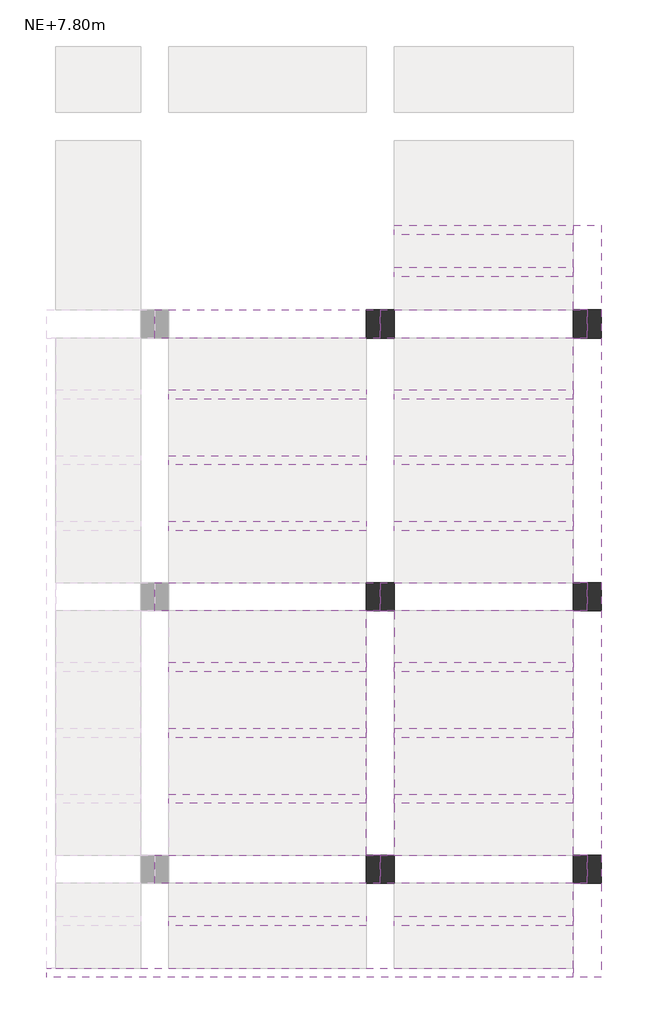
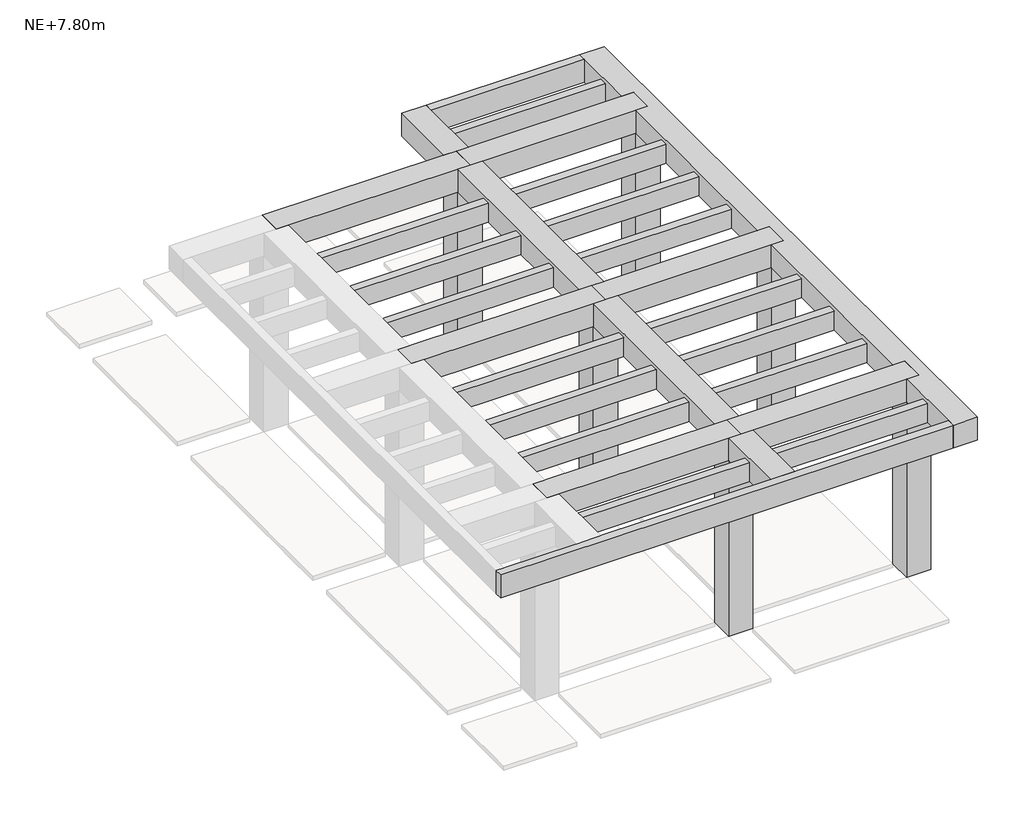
# One storey, part 2 of 2: 25 beams, 6 columns.
"""IFC4 building model written with IfcOpenShell, lengths in millimetres."""

from ifc_helpers import new_model, si_unit, frame, origin, place, context, project, spatial, polyline, outline, extrude, faceted_brep, element, save

model = new_model("IFC4")

# Units and contexts
model_context = context("Model", 3, world=origin())
ifc_project = project(units=[si_unit("LENGTHUNIT", "METRE", prefix="MILLI")], contexts=[model_context])

# Site, building, storey
site = spatial("IfcSite", under=ifc_project)
building = spatial("IfcBuilding", under=site)
storey = spatial("IfcBuildingStorey", under=building, Name="NE+7.80m", Elevation=7800.0)

# Beams
placement = place(None, origin())
element("IfcBeam", 1, ObjectType="Hormigón-Viga rectangular : VA (0.30x0.30m)", at=placement, inside=storey, context=model_context, shape_type="Brep", body=[
    faceted_brep([(1502.3188918, -1037.1867862, 10400.0), (1502.3188918, -1337.1867862, 10400.0), (1652.3188918, -1337.1867862, 10400.0), (3552.3188918, -1337.1867862, 10400.0), (3702.3188918, -1337.1867862, 10400.0), (3702.3188918, -1037.1867862, 10400.0), (3552.3188918, -1037.1867862, 10400.0), (1652.3188918, -1037.1867862, 10400.0), (3702.3188918, -1037.1867862, 10100.0), (3552.3188918, -1037.1867862, 10100.0), (1652.3188918, -1037.1867862, 10100.0), (1502.3188918, -1037.1867862, 10100.0), (3702.3188918, -1337.1867862, 10100.0), (3552.3188918, -1337.1867862, 10100.0), (1652.3188918, -1337.1867862, 10100.0), (1502.3188918, -1337.1867862, 10100.0)], [[[0, 1, 2, 3, 4, 5, 6, 7]], [[8, 9, 10, 11, 0, 7, 6, 5]], [[11, 10, 9, 8, 12, 13, 14, 15]], [[15, 14, 13, 12, 4, 3, 2, 1]], [[1, 0, 11, 15]], [[4, 12, 8, 5]]]),
])
element("IfcBeam", 2, ObjectType="Hormigón-Viga rectangular : VA (0.30x0.30m)", at=placement, inside=storey, context=model_context, shape_type="Brep", body=[
    faceted_brep([(1502.3188918, -1037.1867862, 10400.0), (1352.3188918, -1037.1867862, 10400.0), (-897.6811082, -1037.1867862, 10400.0), (-897.6811082, -1337.1867862, 10400.0), (-747.6811082, -1337.1867862, 10400.0), (1352.3188918, -1337.1867862, 10400.0), (1502.3188918, -1337.1867862, 10400.0), (1502.3188918, -1037.1867862, 10100.0), (1352.3188918, -1037.1867862, 10100.0), (-897.6811082, -1037.1867862, 10100.0), (1502.3188918, -1337.1867862, 10100.0), (1352.3188918, -1337.1867862, 10100.0), (-747.6811082, -1337.1867862, 10100.0), (-897.6811082, -1337.1867862, 10100.0)], [[[0, 1, 2, 3, 4, 5, 6]], [[2, 1, 0, 7, 8, 9]], [[9, 8, 7, 10, 11, 12, 13]], [[13, 12, 11, 10, 6, 5, 4, 3]], [[3, 2, 9, 13]], [[6, 10, 7, 0]]]),
])
element("IfcBeam", 3, ObjectType="Hormigón-Viga rectangular : VA (0.30x0.30m)", at=placement, inside=storey, context=model_context, shape_type="Brep", body=[
    faceted_brep([(1502.3188918, -3937.1867862, 10400.0), (1502.3188918, -4237.1867862, 10400.0), (1652.3188918, -4237.1867862, 10400.0), (3552.3188918, -4237.1867862, 10400.0), (3702.3188918, -4237.1867862, 10400.0), (3702.3188918, -3937.1867862, 10400.0), (3552.3188918, -3937.1867862, 10400.0), (1652.3188918, -3937.1867862, 10400.0), (3702.3188918, -3937.1867862, 10100.0), (3552.3188918, -3937.1867862, 10100.0), (1652.3188918, -3937.1867862, 10100.0), (1502.3188918, -3937.1867862, 10100.0), (3702.3188918, -4237.1867862, 10100.0), (3552.3188918, -4237.1867862, 10100.0), (1652.3188918, -4237.1867862, 10100.0), (1502.3188918, -4237.1867862, 10100.0)], [[[0, 1, 2, 3, 4, 5, 6, 7]], [[8, 9, 10, 11, 0, 7, 6, 5]], [[11, 10, 9, 8, 12, 13, 14, 15]], [[15, 14, 13, 12, 4, 3, 2, 1]], [[1, 0, 11, 15]], [[4, 12, 8, 5]]]),
])
element("IfcBeam", 4, ObjectType="Hormigón-Viga rectangular : VA (0.30x0.30m)", at=placement, inside=storey, context=model_context, shape_type="Brep", body=[
    faceted_brep([(-897.6811082, -3937.1867862, 10400.0), (-897.6811082, -4237.1867862, 10400.0), (-747.6811082, -4237.1867862, 10400.0), (1352.3188918, -4237.1867862, 10400.0), (1502.3188918, -4237.1867862, 10400.0), (1502.3188918, -3937.1867862, 10400.0), (1352.3188918, -3937.1867862, 10400.0), (-747.6811082, -3937.1867862, 10400.0), (1502.3188918, -3937.1867862, 10100.0), (1352.3188918, -3937.1867862, 10100.0), (-747.6811082, -3937.1867862, 10100.0), (-897.6811082, -3937.1867862, 10100.0), (1502.3188918, -4237.1867862, 10100.0), (1352.3188918, -4237.1867862, 10100.0), (-747.6811082, -4237.1867862, 10100.0), (-897.6811082, -4237.1867862, 10100.0)], [[[0, 1, 2, 3, 4, 5, 6, 7]], [[8, 9, 10, 11, 0, 7, 6, 5]], [[11, 10, 9, 8, 12, 13, 14, 15]], [[15, 14, 13, 12, 4, 3, 2, 1]], [[1, 0, 11, 15]], [[4, 12, 8, 5]]]),
])
element("IfcBeam", 5, ObjectType="Hormigón-Viga rectangular : VA (0.30x0.30m)", at=placement, inside=storey, context=model_context, shape_type="Brep", body=[
    faceted_brep([(3702.3188918, -7137.1867862, 10400.0), (3702.3188918, -6837.1867862, 10400.0), (3552.3188918, -6837.1867862, 10400.0), (1652.3188918, -6837.1867862, 10400.0), (1502.3188918, -6837.1867862, 10400.0), (1502.3188918, -7137.1867862, 10400.0), (1652.3188918, -7137.1867862, 10400.0), (3552.3188918, -7137.1867862, 10400.0), (3702.3188918, -6837.1867862, 10100.0), (3552.3188918, -6837.1867862, 10100.0), (1652.3188918, -6837.1867862, 10100.0), (1502.3188918, -6837.1867862, 10100.0), (3702.3188918, -7137.1867862, 10100.0), (3552.3188918, -7137.1867862, 10100.0), (1652.3188918, -7137.1867862, 10100.0), (1502.3188918, -7137.1867862, 10100.0)], [[[0, 1, 2, 3, 4, 5, 6, 7]], [[8, 9, 10, 11, 4, 3, 2, 1]], [[11, 10, 9, 8, 12, 13, 14, 15]], [[15, 14, 13, 12, 0, 7, 6, 5]], [[0, 12, 8, 1]], [[5, 4, 11, 15]]]),
])
element("IfcBeam", 6, ObjectType="Hormigón-Viga rectangular : VA (0.30x0.30m)", at=placement, inside=storey, context=model_context, shape_type="Brep", body=[
    faceted_brep([(1502.3188918, -7137.1867862, 10400.0), (1502.3188918, -6837.1867862, 10400.0), (1352.3188918, -6837.1867862, 10400.0), (-747.6811082, -6837.1867862, 10400.0), (-897.6811082, -6837.1867862, 10400.0), (-897.6811082, -7137.1867862, 10400.0), (-747.6811082, -7137.1867862, 10400.0), (1352.3188918, -7137.1867862, 10400.0), (1502.3188918, -6837.1867862, 10100.0), (1352.3188918, -6837.1867862, 10100.0), (-747.6811082, -6837.1867862, 10100.0), (-897.6811082, -6837.1867862, 10100.0), (1502.3188918, -7137.1867862, 10100.0), (1352.3188918, -7137.1867862, 10100.0), (-747.6811082, -7137.1867862, 10100.0), (-897.6811082, -7137.1867862, 10100.0)], [[[0, 1, 2, 3, 4, 5, 6, 7]], [[8, 9, 10, 11, 4, 3, 2, 1]], [[11, 10, 9, 8, 12, 13, 14, 15]], [[15, 14, 13, 12, 0, 7, 6, 5]], [[0, 12, 8, 1]], [[5, 4, 11, 15]]]),
])
element("IfcBeam", 7, ObjectType="Hormigón-Viga rectangular : VA (0.30x0.30m)", at=placement, inside=storey, context=model_context, shape_type="Brep", body=[
    faceted_brep([(3552.3188918, -1037.1867862, 10400.0), (3702.3188918, -1037.1867862, 10400.0), (3702.3188918, -1337.1867862, 10400.0), (3552.3188918, -1337.1867862, 10400.0), (3552.3188918, -3937.1867862, 10400.0), (3702.3188918, -3937.1867862, 10400.0), (3702.3188918, -4237.1867862, 10400.0), (3552.3188918, -4237.1867862, 10400.0), (3552.3188918, -6837.1867862, 10400.0), (3702.3188918, -6837.1867862, 10400.0), (3702.3188918, -7137.1867862, 10400.0), (3552.3188918, -7137.1867862, 10400.0), (3552.3188918, -8037.1867862, 10400.0), (3552.3188918, -8137.1867862, 10400.0), (3852.3188918, -8137.1867862, 10400.0), (3852.3188918, -137.1867862, 10400.0), (3552.3188918, -137.1867862, 10400.0), (3552.3188918, -237.1867862, 10400.0), (3852.3188918, -137.1867862, 10100.0), (3852.3188918, -8137.1867862, 10100.0), (3852.3188918, -7137.1867862, 10100.0), (3852.3188918, -6837.1867862, 10100.0), (3852.3188918, -4237.1867862, 10100.0), (3852.3188918, -3937.1867862, 10100.0), (3852.3188918, -1337.1867862, 10100.0), (3852.3188918, -1037.1867862, 10100.0), (3702.3188918, -1037.1867862, 10100.0), (3552.3188918, -1037.1867862, 10100.0), (3552.3188918, -687.1867862, 10100.0), (3552.3188918, -587.1867862, 10100.0), (3552.3188918, -237.1867862, 10100.0), (3552.3188918, -137.1867862, 10100.0), (3552.3188918, -8137.1867862, 10100.0), (3552.3188918, -8037.1867862, 10100.0), (3552.3188918, -7587.1867862, 10100.0), (3552.3188918, -7487.1867862, 10100.0), (3552.3188918, -7137.1867862, 10100.0), (3702.3188918, -7137.1867862, 10100.0), (3702.3188918, -6837.1867862, 10100.0), (3552.3188918, -6837.1867862, 10100.0), (3552.3188918, -6287.1867862, 10100.0), (3552.3188918, -6187.1867862, 10100.0), (3552.3188918, -5587.1867862, 10100.0), (3552.3188918, -5487.1867862, 10100.0), (3552.3188918, -4887.1867862, 10100.0), (3552.3188918, -4787.1867862, 10100.0), (3552.3188918, -4237.1867862, 10100.0), (3702.3188918, -4237.1867862, 10100.0), (3702.3188918, -3937.1867862, 10100.0), (3552.3188918, -3937.1867862, 10100.0), (3552.3188918, -3387.1867862, 10100.0), (3552.3188918, -3287.1867862, 10100.0), (3552.3188918, -2687.1867862, 10100.0), (3552.3188918, -2587.1867862, 10100.0), (3552.3188918, -1987.1867862, 10100.0), (3552.3188918, -1887.1867862, 10100.0), (3552.3188918, -1337.1867862, 10100.0), (3702.3188918, -1337.1867862, 10100.0), (3552.3188918, -7137.1867862, 10350.0), (3552.3188918, -1037.1867862, 10350.0), (3552.3188918, -1337.1867862, 10350.0), (3552.3188918, -3937.1867862, 10350.0), (3552.3188918, -4237.1867862, 10350.0), (3552.3188918, -6837.1867862, 10350.0)], [[[0, 1, 2, 3, 4, 5, 6, 7, 8, 9, 10, 11, 12, 13, 14, 15, 16, 17]], [[18, 15, 14, 19, 20, 21, 22, 23, 24, 25]], [[26, 27, 28, 29, 30, 31, 18, 25, 24, 23, 22, 21, 20, 19, 32, 33, 34, 35, 36, 37, 38, 39, 40, 41, 42, 43, 44, 45, 46, 47, 48, 49, 50, 51, 52, 53, 54, 55, 56, 57]], [[32, 13, 12, 11, 58, 36, 35, 34, 33]], [[26, 1, 0, 59, 27]], [[2, 57, 56, 60, 3]], [[1, 26, 57, 2]], [[27, 59, 0, 17, 16, 31, 30, 29, 28]], [[48, 5, 4, 61, 49]], [[6, 47, 46, 62, 7]], [[5, 48, 47, 6]], [[38, 9, 8, 63, 39]], [[10, 37, 36, 58, 11]], [[9, 38, 37, 10]], [[16, 15, 18, 31]], [[14, 13, 32, 19]], [[3, 60, 56, 55, 54, 53, 52, 51, 50, 49, 61, 4]], [[7, 62, 46, 45, 44, 43, 42, 41, 40, 39, 63, 8]]]),
])
element("IfcBeam", 8, ObjectType="Hormigón-Viga rectangular : VA (0.30x0.30m)", at=placement, inside=storey, context=model_context, shape_type="Brep", body=[
    faceted_brep([(1352.3188918, -1037.1867862, 10400.0), (1502.3188918, -1037.1867862, 10400.0), (1652.3188918, -1037.1867862, 10400.0), (1652.3188918, -237.1867862, 10400.0), (1652.3188918, -137.1867862, 10400.0), (1352.3188918, -137.1867862, 10400.0), (1352.3188918, -1037.1867862, 10100.0), (1352.3188918, -137.1867862, 10100.0), (1652.3188918, -1037.1867862, 10100.0), (1502.3188918, -1037.1867862, 10100.0), (1652.3188918, -137.1867862, 10100.0), (1652.3188918, -237.1867862, 10100.0), (1652.3188918, -587.1867862, 10100.0), (1652.3188918, -687.1867862, 10100.0), (1652.3188918, -1037.1867862, 10350.0)], [[[0, 1, 2, 3, 4, 5]], [[6, 0, 5, 7]], [[8, 9, 6, 7, 10, 11, 12, 13]], [[10, 4, 3, 2, 14, 8, 13, 12, 11]], [[0, 6, 9, 8, 14, 2, 1]], [[5, 4, 10, 7]]]),
    faceted_brep([(1352.3188918, -1337.1867862, 10400.0), (1502.3188918, -1337.1867862, 10400.0), (1652.3188918, -1337.1867862, 10400.0), (1652.3188918, -1337.1867862, 10350.0), (1652.3188918, -1337.1867862, 10100.0), (1502.3188918, -1337.1867862, 10100.0), (1352.3188918, -1337.1867862, 10100.0), (1352.3188918, -1337.1867862, 10350.0), (1652.3188918, -3937.1867862, 10400.0), (1502.3188918, -3937.1867862, 10400.0), (1352.3188918, -3937.1867862, 10400.0), (1352.3188918, -3937.1867862, 10350.0), (1352.3188918, -3937.1867862, 10100.0), (1502.3188918, -3937.1867862, 10100.0), (1652.3188918, -3937.1867862, 10100.0), (1652.3188918, -3937.1867862, 10350.0), (1652.3188918, -3387.1867862, 10100.0), (1652.3188918, -3287.1867862, 10100.0), (1652.3188918, -2687.1867862, 10100.0), (1652.3188918, -2587.1867862, 10100.0), (1652.3188918, -1987.1867862, 10100.0), (1652.3188918, -1887.1867862, 10100.0), (1352.3188918, -1887.1867862, 10100.0), (1352.3188918, -1987.1867862, 10100.0), (1352.3188918, -2587.1867862, 10100.0), (1352.3188918, -2687.1867862, 10100.0), (1352.3188918, -3287.1867862, 10100.0), (1352.3188918, -3387.1867862, 10100.0)], [[[0, 1, 2, 3, 4, 5, 6, 7]], [[8, 9, 10, 11, 12, 13, 14, 15]], [[14, 16, 17, 18, 19, 20, 21, 4, 3, 2, 8, 15]], [[2, 1, 0, 10, 9, 8]], [[10, 0, 7, 6, 22, 23, 24, 25, 26, 27, 12, 11]], [[6, 5, 4, 21, 20, 19, 18, 17, 16, 14, 13, 12, 27, 26, 25, 24, 23, 22]]]),
    faceted_brep([(1652.3188918, -6837.1867862, 10100.0), (1652.3188918, -6287.1867862, 10100.0), (1652.3188918, -6187.1867862, 10100.0), (1652.3188918, -5587.1867862, 10100.0), (1652.3188918, -5487.1867862, 10100.0), (1652.3188918, -4887.1867862, 10100.0), (1652.3188918, -4787.1867862, 10100.0), (1652.3188918, -4237.1867862, 10100.0), (1652.3188918, -4237.1867862, 10350.0), (1652.3188918, -4237.1867862, 10400.0), (1652.3188918, -6837.1867862, 10400.0), (1652.3188918, -6837.1867862, 10350.0), (1502.3188918, -4237.1867862, 10400.0), (1352.3188918, -4237.1867862, 10400.0), (1352.3188918, -6837.1867862, 10400.0), (1502.3188918, -6837.1867862, 10400.0), (1352.3188918, -4237.1867862, 10350.0), (1352.3188918, -4237.1867862, 10100.0), (1352.3188918, -4787.1867862, 10100.0), (1352.3188918, -4887.1867862, 10100.0), (1352.3188918, -5487.1867862, 10100.0), (1352.3188918, -5587.1867862, 10100.0), (1352.3188918, -6187.1867862, 10100.0), (1352.3188918, -6287.1867862, 10100.0), (1352.3188918, -6837.1867862, 10100.0), (1352.3188918, -6837.1867862, 10350.0), (1502.3188918, -4237.1867862, 10100.0), (1502.3188918, -6837.1867862, 10100.0)], [[[0, 1, 2, 3, 4, 5, 6, 7, 8, 9, 10, 11]], [[9, 12, 13, 14, 15, 10]], [[14, 13, 16, 17, 18, 19, 20, 21, 22, 23, 24, 25]], [[17, 26, 7, 6, 5, 4, 3, 2, 1, 0, 27, 24, 23, 22, 21, 20, 19, 18]], [[7, 26, 17, 16, 13, 12, 9, 8]], [[10, 15, 14, 25, 24, 27, 0, 11]]]),
    faceted_brep([(1652.3188918, -7137.1867862, 10100.0), (1502.3188918, -7137.1867862, 10100.0), (1352.3188918, -7137.1867862, 10100.0), (1352.3188918, -7137.1867862, 10350.0), (1352.3188918, -7137.1867862, 10400.0), (1502.3188918, -7137.1867862, 10400.0), (1652.3188918, -7137.1867862, 10400.0), (1652.3188918, -7137.1867862, 10350.0), (1652.3188918, -8037.1867862, 10100.0), (1652.3188918, -7587.1867862, 10100.0), (1652.3188918, -7487.1867862, 10100.0), (1652.3188918, -8037.1867862, 10400.0), (1652.3188918, -8037.1867862, 10350.0), (1352.3188918, -8037.1867862, 10400.0), (1352.3188918, -7487.1867862, 10100.0), (1352.3188918, -7587.1867862, 10100.0), (1352.3188918, -8037.1867862, 10100.0), (1352.3188918, -8037.1867862, 10350.0)], [[[0, 1, 2, 3, 4, 5, 6, 7]], [[8, 9, 10, 0, 7, 6, 11, 12]], [[6, 5, 4, 13, 11]], [[13, 4, 3, 2, 14, 15, 16, 17]], [[2, 1, 0, 10, 9, 8, 16, 15, 14]], [[11, 13, 17, 16, 8, 12]]]),
])
element("IfcBeam", 9, ObjectType="Hormigón-Viga rectangular : VB (0.10x0.30m)", at=placement, inside=storey, context=model_context, shape_type="Brep", body=[
    faceted_brep([(-2047.6811082, -8037.1867862, 10400.0), (-2047.6811082, -8137.1867862, 10400.0), (3552.3188918, -8137.1867862, 10400.0), (3552.3188918, -8037.1867862, 10400.0), (1652.3188918, -8037.1867862, 10400.0), (1352.3188918, -8037.1867862, 10400.0), (-747.6811082, -8037.1867862, 10400.0), (-1047.6811082, -8037.1867862, 10400.0), (-1947.6811082, -8037.1867862, 10400.0), (-2047.6811082, -8037.1867862, 10100.0), (3552.3188918, -8037.1867862, 10350.0), (3552.3188918, -8037.1867862, 10100.0), (1652.3188918, -8037.1867862, 10100.0), (1352.3188918, -8037.1867862, 10100.0), (-747.6811082, -8037.1867862, 10100.0), (-1047.6811082, -8037.1867862, 10100.0), (-1947.6811082, -8037.1867862, 10100.0), (-2047.6811082, -8137.1867862, 10100.0), (3552.3188918, -8137.1867862, 10100.0)], [[[0, 1, 2, 3, 4, 5, 6, 7, 8]], [[9, 0, 8, 7, 6, 5, 4, 3, 10, 11, 12, 13, 14, 15, 16]], [[17, 9, 16, 15, 14, 13, 12, 11, 18]], [[1, 17, 18, 2]], [[1, 0, 9, 17]], [[3, 2, 18, 11, 10]]]),
])
element("IfcBeam", 10, ObjectType="Hormigón-Viga rectangular : VB (0.10x0.30m)", at=placement, inside=storey, context=model_context, shape_type="Brep", body=[
    faceted_brep([(1652.3188918, -137.1867862, 10400.0), (1652.3188918, -237.1867862, 10400.0), (3552.3188918, -237.1867862, 10400.0), (3552.3188918, -137.1867862, 10400.0), (1652.3188918, -137.1867862, 10100.0), (3552.3188918, -137.1867862, 10100.0), (1652.3188918, -237.1867862, 10100.0), (3552.3188918, -237.1867862, 10100.0), (1652.3188918, -237.1867862, 10350.0), (3552.3188918, -237.1867862, 10350.0)], [[[0, 1, 2, 3]], [[4, 0, 3, 5]], [[6, 4, 5, 7]], [[1, 8, 6, 7, 9, 2]], [[1, 0, 4, 6, 8]], [[3, 2, 9, 7, 5]]]),
])
element("IfcBeam", 11, ObjectType="Hormigón-Viga rectangular : VT (0.10x0.30m)", at=placement, inside=storey, context=model_context, shape_type="SweptSolid", body=[
    extrude(outline(polyline([(3552.3188918, -7487.1867862), (3552.3188918, -7587.1867862), (1652.3188918, -7587.1867862), (1652.3188918, -7487.1867862), (3552.3188918, -7487.1867862)])), frame((0.0, 0.0, 10100.0), z_axis=(0.0, 0.0, 1.0), x_axis=(1.0, 0.0, 0.0)), (0.0, 0.0, 1.0), 250.0),
])
element("IfcBeam", 12, ObjectType="Hormigón-Viga rectangular : VT (0.10x0.30m)", at=placement, inside=storey, context=model_context, shape_type="SweptSolid", body=[
    extrude(outline(polyline([(3552.3188918, -6187.1867862), (3552.3188918, -6287.1867862), (1652.3188918, -6287.1867862), (1652.3188918, -6187.1867862), (3552.3188918, -6187.1867862)])), frame((0.0, 0.0, 10100.0), z_axis=(0.0, 0.0, 1.0), x_axis=(1.0, 0.0, 0.0)), (0.0, 0.0, 1.0), 250.0),
])
element("IfcBeam", 13, ObjectType="Hormigón-Viga rectangular : VT (0.10x0.30m)", at=placement, inside=storey, context=model_context, shape_type="SweptSolid", body=[
    extrude(outline(polyline([(3552.3188918, -5487.1867862), (3552.3188918, -5587.1867862), (1652.3188918, -5587.1867862), (1652.3188918, -5487.1867862), (3552.3188918, -5487.1867862)])), frame((0.0, 0.0, 10100.0), z_axis=(0.0, 0.0, 1.0), x_axis=(1.0, 0.0, 0.0)), (0.0, 0.0, 1.0), 250.0),
])
element("IfcBeam", 14, ObjectType="Hormigón-Viga rectangular : VT (0.10x0.30m)", at=placement, inside=storey, context=model_context, shape_type="SweptSolid", body=[
    extrude(outline(polyline([(3552.3188918, -4787.1867862), (3552.3188918, -4887.1867862), (1652.3188918, -4887.1867862), (1652.3188918, -4787.1867862), (3552.3188918, -4787.1867862)])), frame((0.0, 0.0, 10100.0), z_axis=(0.0, 0.0, 1.0), x_axis=(1.0, 0.0, 0.0)), (0.0, 0.0, 1.0), 250.0),
])
element("IfcBeam", 15, ObjectType="Hormigón-Viga rectangular : VT (0.10x0.30m)", at=placement, inside=storey, context=model_context, shape_type="SweptSolid", body=[
    extrude(outline(polyline([(1352.3188918, -6187.1867862), (1352.3188918, -6287.1867862), (-747.6811082, -6287.1867862), (-747.6811082, -6187.1867862), (1352.3188918, -6187.1867862)])), frame((0.0, 0.0, 10100.0), z_axis=(0.0, 0.0, 1.0), x_axis=(1.0, 0.0, 0.0)), (0.0, 0.0, 1.0), 250.0),
])
element("IfcBeam", 16, ObjectType="Hormigón-Viga rectangular : VT (0.10x0.30m)", at=placement, inside=storey, context=model_context, shape_type="SweptSolid", body=[
    extrude(outline(polyline([(1352.3188918, -5487.1867862), (1352.3188918, -5587.1867862), (-747.6811082, -5587.1867862), (-747.6811082, -5487.1867862), (1352.3188918, -5487.1867862)])), frame((0.0, 0.0, 10100.0), z_axis=(0.0, 0.0, 1.0), x_axis=(1.0, 0.0, 0.0)), (0.0, 0.0, 1.0), 250.0),
])
element("IfcBeam", 17, ObjectType="Hormigón-Viga rectangular : VT (0.10x0.30m)", at=placement, inside=storey, context=model_context, shape_type="SweptSolid", body=[
    extrude(outline(polyline([(1352.3188918, -4787.1867862), (1352.3188918, -4887.1867862), (-747.6811082, -4887.1867862), (-747.6811082, -4787.1867862), (1352.3188918, -4787.1867862)])), frame((0.0, 0.0, 10100.0), z_axis=(0.0, 0.0, 1.0), x_axis=(1.0, 0.0, 0.0)), (0.0, 0.0, 1.0), 250.0),
])
element("IfcBeam", 18, ObjectType="Hormigón-Viga rectangular : VT (0.10x0.30m)", at=placement, inside=storey, context=model_context, shape_type="SweptSolid", body=[
    extrude(outline(polyline([(1352.3188918, -3287.1867862), (1352.3188918, -3387.1867862), (-747.6811082, -3387.1867862), (-747.6811082, -3287.1867862), (1352.3188918, -3287.1867862)])), frame((0.0, 0.0, 10100.0), z_axis=(0.0, 0.0, 1.0), x_axis=(1.0, 0.0, 0.0)), (0.0, 0.0, 1.0), 250.0),
])
element("IfcBeam", 19, ObjectType="Hormigón-Viga rectangular : VT (0.10x0.30m)", at=placement, inside=storey, context=model_context, shape_type="SweptSolid", body=[
    extrude(outline(polyline([(1352.3188918, -2587.1867862), (1352.3188918, -2687.1867862), (-747.6811082, -2687.1867862), (-747.6811082, -2587.1867862), (1352.3188918, -2587.1867862)])), frame((0.0, 0.0, 10100.0), z_axis=(0.0, 0.0, 1.0), x_axis=(1.0, 0.0, 0.0)), (0.0, 0.0, 1.0), 250.0),
])
element("IfcBeam", 20, ObjectType="Hormigón-Viga rectangular : VT (0.10x0.30m)", at=placement, inside=storey, context=model_context, shape_type="SweptSolid", body=[
    extrude(outline(polyline([(1352.3188918, -1887.1867862), (1352.3188918, -1987.1867862), (-747.6811082, -1987.1867862), (-747.6811082, -1887.1867862), (1352.3188918, -1887.1867862)])), frame((0.0, 0.0, 10100.0), z_axis=(0.0, 0.0, 1.0), x_axis=(1.0, 0.0, 0.0)), (0.0, 0.0, 1.0), 250.0),
])
element("IfcBeam", 21, ObjectType="Hormigón-Viga rectangular : VT (0.10x0.30m)", at=placement, inside=storey, context=model_context, shape_type="SweptSolid", body=[
    extrude(outline(polyline([(3552.3188918, -3287.1867862), (3552.3188918, -3387.1867862), (1652.3188918, -3387.1867862), (1652.3188918, -3287.1867862), (3552.3188918, -3287.1867862)])), frame((0.0, 0.0, 10100.0), z_axis=(0.0, 0.0, 1.0), x_axis=(1.0, 0.0, 0.0)), (0.0, 0.0, 1.0), 250.0),
])
element("IfcBeam", 22, ObjectType="Hormigón-Viga rectangular : VT (0.10x0.30m)", at=placement, inside=storey, context=model_context, shape_type="SweptSolid", body=[
    extrude(outline(polyline([(3552.3188918, -2587.1867862), (3552.3188918, -2687.1867862), (1652.3188918, -2687.1867862), (1652.3188918, -2587.1867862), (3552.3188918, -2587.1867862)])), frame((0.0, 0.0, 10100.0), z_axis=(0.0, 0.0, 1.0), x_axis=(1.0, 0.0, 0.0)), (0.0, 0.0, 1.0), 250.0),
])
element("IfcBeam", 23, ObjectType="Hormigón-Viga rectangular : VT (0.10x0.30m)", at=placement, inside=storey, context=model_context, shape_type="SweptSolid", body=[
    extrude(outline(polyline([(3552.3188918, -1887.1867862), (3552.3188918, -1987.1867862), (1652.3188918, -1987.1867862), (1652.3188918, -1887.1867862), (3552.3188918, -1887.1867862)])), frame((0.0, 0.0, 10100.0), z_axis=(0.0, 0.0, 1.0), x_axis=(1.0, 0.0, 0.0)), (0.0, 0.0, 1.0), 250.0),
])
element("IfcBeam", 24, ObjectType="Hormigón-Viga rectangular : VT (0.10x0.30m)", at=placement, inside=storey, context=model_context, shape_type="SweptSolid", body=[
    extrude(outline(polyline([(3552.3188918, -587.1867862), (3552.3188918, -687.1867862), (1652.3188918, -687.1867862), (1652.3188918, -587.1867862), (3552.3188918, -587.1867862)])), frame((0.0, 0.0, 10100.0), z_axis=(0.0, 0.0, 1.0), x_axis=(1.0, 0.0, 0.0)), (0.0, 0.0, 1.0), 250.0),
])
element("IfcBeam", 25, ObjectType="Hormigón-Viga rectangular : VT (0.10x0.30m)", at=placement, inside=storey, context=model_context, shape_type="SweptSolid", body=[
    extrude(outline(polyline([(1352.3188918, -7487.1867862), (1352.3188918, -7587.1867862), (-747.6811082, -7587.1867862), (-747.6811082, -7487.1867862), (1352.3188918, -7487.1867862)])), frame((0.0, 0.0, 10100.0), z_axis=(0.0, 0.0, 1.0), x_axis=(1.0, 0.0, 0.0)), (0.0, 0.0, 1.0), 250.0),
])

# Columns
element("IfcColumn", 26, ObjectType="Hormigón-Rectangular-Pilar : C1 (0.30x0.30m)", at=placement, inside=storey, context=model_context, shape_type="SweptSolid", body=[
    extrude(outline(polyline([(1652.3188918, -1037.1867862), (1652.3188918, -1337.1867862), (1352.3188918, -1337.1867862), (1352.3188918, -1037.1867862), (1652.3188918, -1037.1867862)])), frame((0.0, 0.0, 7800.0), z_axis=(0.0, 0.0, 1.0), x_axis=(1.0, 0.0, 0.0)), (0.0, 0.0, 1.0), 2300.0),
])
element("IfcColumn", 27, ObjectType="Hormigón-Rectangular-Pilar : C1 (0.30x0.30m)", at=placement, inside=storey, context=model_context, shape_type="SweptSolid", body=[
    extrude(outline(polyline([(3852.3188918, -1037.1867862), (3852.3188918, -1337.1867862), (3552.3188918, -1337.1867862), (3552.3188918, -1037.1867862), (3852.3188918, -1037.1867862)])), frame((0.0, 0.0, 7800.0), z_axis=(0.0, 0.0, 1.0), x_axis=(1.0, 0.0, 0.0)), (0.0, 0.0, 1.0), 2300.0),
])
element("IfcColumn", 28, ObjectType="Hormigón-Rectangular-Pilar : C1 (0.30x0.30m)", at=placement, inside=storey, context=model_context, shape_type="SweptSolid", body=[
    extrude(outline(polyline([(1652.3188918, -3937.1867862), (1652.3188918, -4237.1867862), (1352.3188918, -4237.1867862), (1352.3188918, -3937.1867862), (1652.3188918, -3937.1867862)])), frame((0.0, 0.0, 7800.0), z_axis=(0.0, 0.0, 1.0), x_axis=(1.0, 0.0, 0.0)), (0.0, 0.0, 1.0), 2300.0),
])
element("IfcColumn", 29, ObjectType="Hormigón-Rectangular-Pilar : C1 (0.30x0.30m)", at=placement, inside=storey, context=model_context, shape_type="SweptSolid", body=[
    extrude(outline(polyline([(3852.3188918, -3937.1867862), (3852.3188918, -4237.1867862), (3552.3188918, -4237.1867862), (3552.3188918, -3937.1867862), (3852.3188918, -3937.1867862)])), frame((0.0, 0.0, 7800.0), z_axis=(0.0, 0.0, 1.0), x_axis=(1.0, 0.0, 0.0)), (0.0, 0.0, 1.0), 2300.0),
])
element("IfcColumn", 30, ObjectType="Hormigón-Rectangular-Pilar : C1 (0.30x0.30m)", at=placement, inside=storey, context=model_context, shape_type="SweptSolid", body=[
    extrude(outline(polyline([(3852.3188918, -6837.1867862), (3852.3188918, -7137.1867862), (3552.3188918, -7137.1867862), (3552.3188918, -6837.1867862), (3852.3188918, -6837.1867862)])), frame((0.0, 0.0, 7800.0), z_axis=(0.0, 0.0, 1.0), x_axis=(1.0, 0.0, 0.0)), (0.0, 0.0, 1.0), 2300.0),
])
element("IfcColumn", 31, ObjectType="Hormigón-Rectangular-Pilar : C1 (0.30x0.30m)", at=placement, inside=storey, context=model_context, shape_type="SweptSolid", body=[
    extrude(outline(polyline([(1652.3188918, -6837.1867862), (1652.3188918, -7137.1867862), (1352.3188918, -7137.1867862), (1352.3188918, -6837.1867862), (1652.3188918, -6837.1867862)])), frame((0.0, 0.0, 7800.0), z_axis=(0.0, 0.0, 1.0), x_axis=(1.0, 0.0, 0.0)), (0.0, 0.0, 1.0), 2300.0),
])

save(model, "model.ifc")
